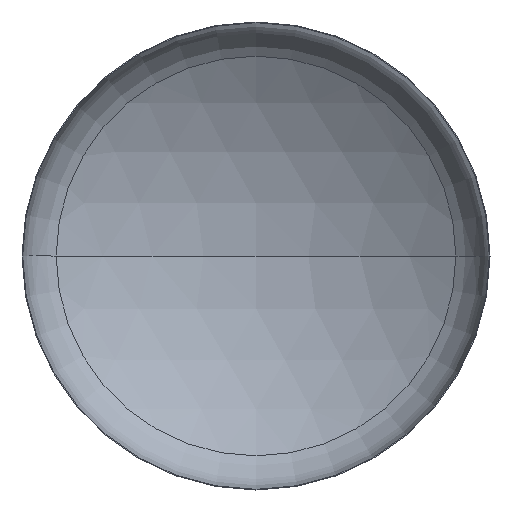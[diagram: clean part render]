
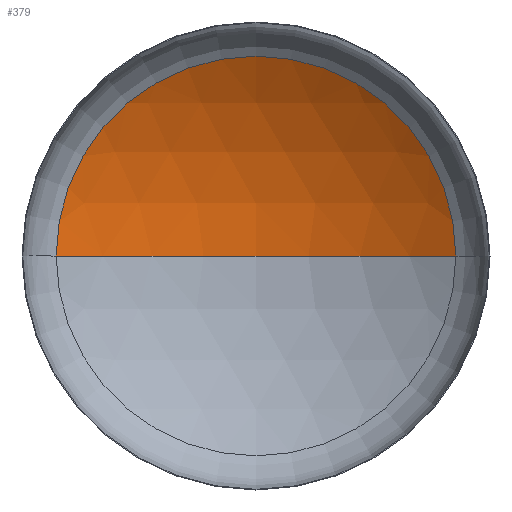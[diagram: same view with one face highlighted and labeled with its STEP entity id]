
A CAD part, front view. The second image highlights one B-rep face of the part: STEP entity #379.
In plain terms, the highlighted spherical face has radius 2240 mm.
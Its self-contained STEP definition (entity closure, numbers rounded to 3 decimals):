
#3 = AXIS2_PLACEMENT_3D ( 'NONE', #223, #101, #160 ) ;
#8 = AXIS2_PLACEMENT_3D ( 'NONE', #191, #398, #217 ) ;
#57 = VERTEX_POINT ( 'NONE', #393 ) ;
#72 = CARTESIAN_POINT ( 'NONE',  ( 0., 729.332, 0. ) ) ;
#81 = DIRECTION ( 'NONE',  ( 0., 0., -1. ) ) ;
#94 = CIRCLE ( 'NONE', #140, 2240. ) ;
#101 = DIRECTION ( 'NONE',  ( 0., 0., 1. ) ) ;
#110 = CIRCLE ( 'NONE', #8, 1195.492 ) ;
#132 = EDGE_LOOP ( 'NONE', ( #151, #234, #362 ) ) ;
#140 = AXIS2_PLACEMENT_3D ( 'NONE', #174, #380, #200 ) ;
#151 = ORIENTED_EDGE ( 'NONE', *, *, #337, .F. ) ;
#160 = DIRECTION ( 'NONE',  ( 1., 0., 0. ) ) ;
#174 = CARTESIAN_POINT ( 'NONE',  ( 0., -1510.668, 0. ) ) ;
#191 = CARTESIAN_POINT ( 'NONE',  ( 0., 383.639, 0. ) ) ;
#200 = DIRECTION ( 'NONE',  ( -1., 0., 0. ) ) ;
#214 = CARTESIAN_POINT ( 'NONE',  ( -1195.492, 383.639, 0. ) ) ;
#217 = DIRECTION ( 'NONE',  ( 1., 0., 0. ) ) ;
#223 = CARTESIAN_POINT ( 'NONE',  ( 0., -1510.668, 0. ) ) ;
#233 = AXIS2_PLACEMENT_3D ( 'NONE', #341, #81, #248 ) ;
#234 = ORIENTED_EDGE ( 'NONE', *, *, #359, .T. ) ;
#241 = SPHERICAL_SURFACE ( 'NONE', #233, 2240. ) ;
#248 = DIRECTION ( 'NONE',  ( -1., 0., 0. ) ) ;
#249 = CIRCLE ( 'NONE', #3, 2240. ) ;
#314 = EDGE_CURVE ( 'NONE', #57, #348, #110, .T. ) ;
#317 = VERTEX_POINT ( 'NONE', #72 ) ;
#323 = FACE_OUTER_BOUND ( 'NONE', #132, .T. ) ;
#337 = EDGE_CURVE ( 'NONE', #317, #348, #249, .T. ) ;
#341 = CARTESIAN_POINT ( 'NONE',  ( 0., -1510.668, 0. ) ) ;
#348 = VERTEX_POINT ( 'NONE', #214 ) ;
#359 = EDGE_CURVE ( 'NONE', #317, #57, #94, .T. ) ;
#362 = ORIENTED_EDGE ( 'NONE', *, *, #314, .T. ) ;
#379 = ADVANCED_FACE ( 'NONE', ( #323 ), #241, .F. ) ;
#380 = DIRECTION ( 'NONE',  ( 0., 0., -1. ) ) ;
#393 = CARTESIAN_POINT ( 'NONE',  ( 1195.492, 383.639, 0. ) ) ;
#398 = DIRECTION ( 'NONE',  ( 0., -1., 0. ) ) ;
